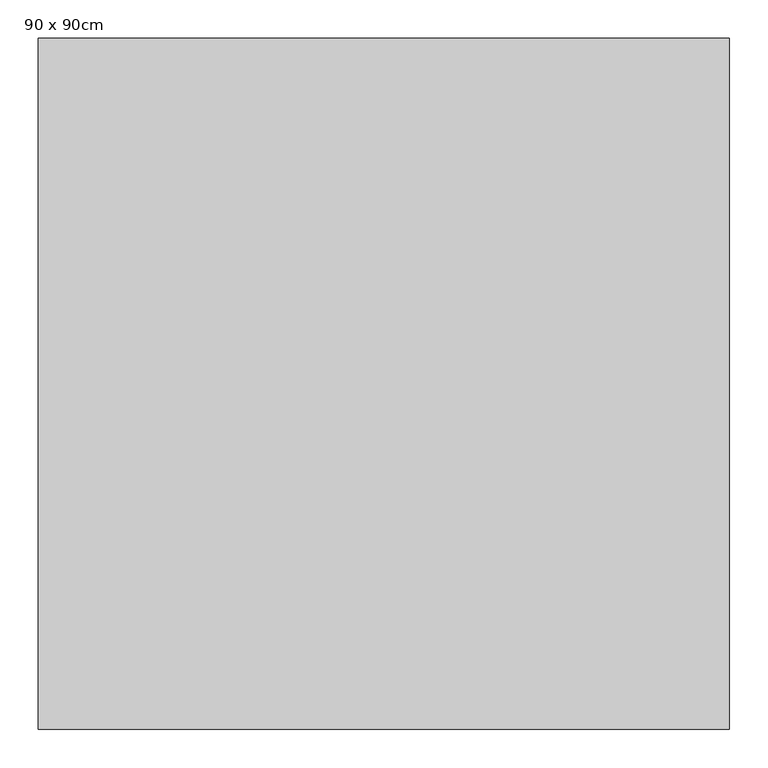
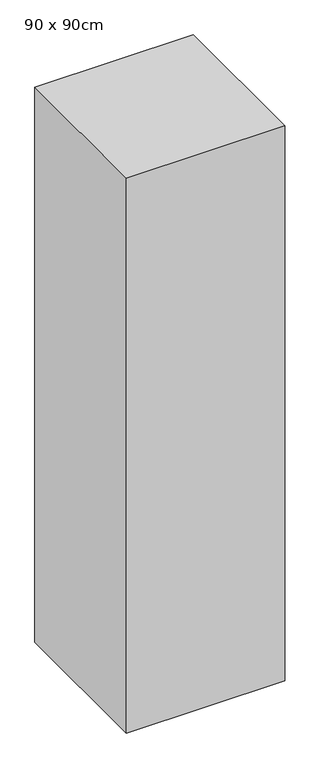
"""IFC4 building model written with IfcOpenShell, lengths in millimetres: column geometry, 混凝土柱-矩形 : 90 x 90cm."""

from ifc_helpers import new_model, si_unit, origin, origin_with_axes, place, context, project, spatial, polyline, outline, extrude, source, transform, mapped, element, save


def column_90_x_90cm_5c75d0cf(model_context):
    return source(origin(), model_context, "Body", "SweptSolid", [
        extrude(outline(polyline([(450.0, 450.0), (450.0, -450.0), (-450.0, -450.0), (-450.0, 450.0), (450.0, 450.0)])), origin_with_axes(), (0.0, 0.0, 1.0), 3330.0),
    ])


if __name__ == "__main__":
    model = new_model("IFC4")
    model_context = context("Model", 3, world=origin())
    ifc_project = project(units=[si_unit("LENGTHUNIT", "METRE", prefix="MILLI")], contexts=[model_context])
    site = spatial("IfcSite", under=ifc_project)
    building = spatial("IfcBuilding", under=site)
    placement = place(None, origin())
    column_90_x_90cm_shape = column_90_x_90cm_5c75d0cf(model_context)
    element("IfcColumn", 1, ObjectType="混凝土柱-矩形 : 90 x 90cm", at=placement, inside=building, context=model_context, shape_type="MappedRepresentation", body=[
        mapped(column_90_x_90cm_shape, transform((0.0, 0.0, 0.0), x_axis=(1.0, 0.0, 0.0), y_axis=(0.0, 1.0, 0.0), z_axis=(0.0, 0.0, 1.0))),
    ])
    save(model, "model.ifc")
